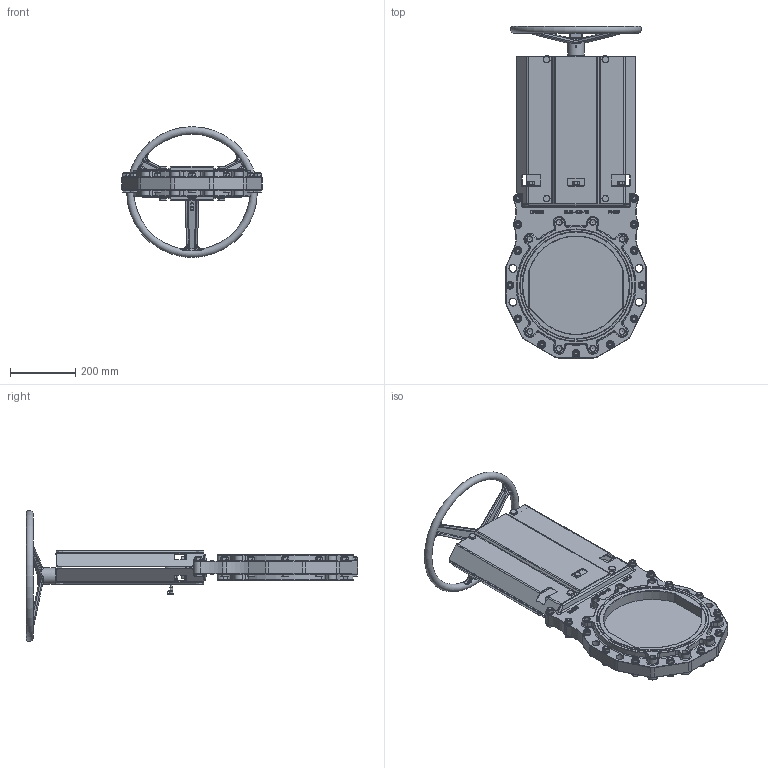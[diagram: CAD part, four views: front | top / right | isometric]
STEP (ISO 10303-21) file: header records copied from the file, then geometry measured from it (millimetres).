
FILE_DESCRIPTION(/* description */ (''),/* implementation_level */ '2;1');
FILE_NAME(/* name */ 'Non-rising stem knife gate valve with handwheel DN300-10.stp',/* time_stamp */ '2025-04-02T09:00:39+08:00',/* author */ (''),/* organization */ (''),/* preprocessor_version */ 'ST-DEVELOPER v15',/* originating_system */ 'SIEMENS PLM Software NX 10.0',/* authorisation */ '');
FILE_SCHEMA (('AP203_CONFIGURATION_CONTROLLED_3D_DESIGN_OF_MECHANICAL_PARTS_AND_ASSEMBLIES_MIM_LF { 1 0 10303 403 2 1 2}'));
Products named in the file (1): Admi271CEB492evx
Bounding box: 430.37 x 1015.93 x 399.98 mm (x, y, z)
Volume: 10395067.9 mm3; surface area: 1703253.5 mm2
Topology: 1 solids, 17 shells, 3221 faces, 7811 edges, 4834 vertices
Faces by surface type: plane 1241, cylinder 724, bspline 452, cone 300, torus 247, extrusion 213, sphere 44
Full cylindrical faces by diameter (mm): 6 x3, 8 x1, 9 x1, 9.188 x2, 10.106 x6, 10.5 x2, 11.053 x13, 11.5 x1, 12 x32, 13 x32, 15.4 x2, 17.2 x21, 17.294 x16, 20 x2, 22.5 x1, 23 x8, 24 x32, 25 x3, 25.2 x1, 28 x1, 40 x3, 50 x1
Entity records: 100071 total; most frequent: CARTESIAN_POINT 30463, ORIENTED_EDGE 14658, DIRECTION 12789, EDGE_CURVE 7329, VERTEX_POINT 4755, AXIS2_PLACEMENT_3D 4740, EDGE_LOOP 3898, VECTOR 3309
